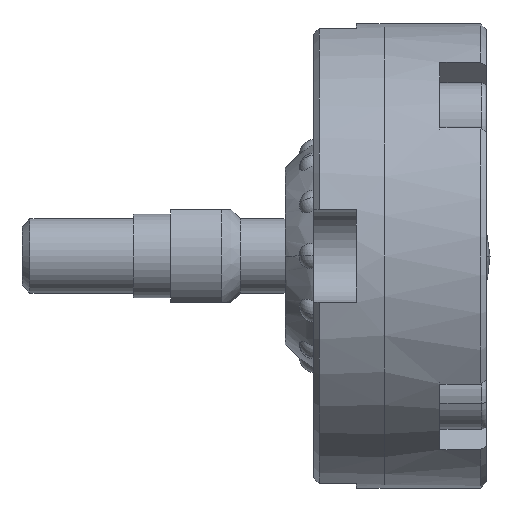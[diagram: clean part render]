
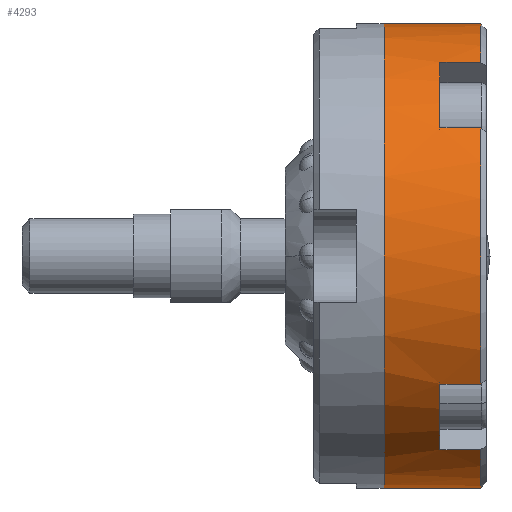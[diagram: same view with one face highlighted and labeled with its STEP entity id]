
A CAD part, front view. The second image highlights one B-rep face of the part: STEP entity #4293.
In plain terms, the highlighted cylindrical face has radius 12.5 mm (diameter 25 mm), a partial arc.
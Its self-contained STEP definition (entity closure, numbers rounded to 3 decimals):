
#707 = AXIS2_PLACEMENT_3D ( 'NONE', #9379, #9380, #9381 ) ;
#817 = AXIS2_PLACEMENT_3D ( 'NONE', #9047, #9048, #9049 ) ;
#819 = AXIS2_PLACEMENT_3D ( 'NONE', #9069, #9070, #9071 ) ;
#824 = AXIS2_PLACEMENT_3D ( 'NONE', #9090, #9091, #9092 ) ;
#827 = AXIS2_PLACEMENT_3D ( 'NONE', #9117, #9118, #9119 ) ;
#828 = AXIS2_PLACEMENT_3D ( 'NONE', #9120, #9121, #9122 ) ;
#994 = CARTESIAN_POINT ( 'NONE',  ( 0., 0., -12.5 ) ) ;
#995 = DIRECTION ( 'NONE',  ( -1., 0., 0. ) ) ;
#1299 = CARTESIAN_POINT ( 'NONE',  ( 5.2, 0., 0. ) ) ;
#1300 = DIRECTION ( 'NONE',  ( -1., 0., 0. ) ) ;
#1301 = DIRECTION ( 'NONE',  ( 0., 0., 1. ) ) ;
#1386 = CARTESIAN_POINT ( 'NONE',  ( 0., 0., 12.5 ) ) ;
#1387 = DIRECTION ( 'NONE',  ( -1., 0., 0. ) ) ;
#2089 = CARTESIAN_POINT ( 'NONE',  ( 5.2, -6.892, 10.428 ) ) ;
#2122 = CARTESIAN_POINT ( 'NONE',  ( 0., 0., 12.5 ) ) ;
#2123 = CARTESIAN_POINT ( 'NONE',  ( 5.2, 0., -12.5 ) ) ;
#2124 = CARTESIAN_POINT ( 'NONE',  ( 5.2, 0., 12.5 ) ) ;
#2125 = CARTESIAN_POINT ( 'NONE',  ( 0., 0., -12.5 ) ) ;
#2132 = CARTESIAN_POINT ( 'NONE',  ( 3., -6.892, 10.428 ) ) ;
#2133 = CARTESIAN_POINT ( 'NONE',  ( 3., -10.428, 6.892 ) ) ;
#2136 = CARTESIAN_POINT ( 'NONE',  ( 5.2, -10.428, 6.892 ) ) ;
#2137 = CARTESIAN_POINT ( 'NONE',  ( 5.2, -10.428, -6.892 ) ) ;
#2143 = CARTESIAN_POINT ( 'NONE',  ( 3., -10.428, -6.892 ) ) ;
#2144 = CARTESIAN_POINT ( 'NONE',  ( 3., -6.892, -10.428 ) ) ;
#2148 = CARTESIAN_POINT ( 'NONE',  ( 5.2, -6.892, -10.428 ) ) ;
#2980 = EDGE_CURVE ( 'NONE', #7038, #7073, #4916, .T. ) ;
#3014 = EDGE_CURVE ( 'NONE', #7073, #7071, #4867, .T. ) ;
#3035 = EDGE_CURVE ( 'NONE', #7072, #7074, #8943, .T. ) ;
#3082 = AXIS2_PLACEMENT_3D ( 'NONE', #1299, #1300, #1301 ) ;
#4293 = ADVANCED_FACE ( 'NONE', ( #7698 ), #7702, .T. ) ;
#4866 = VECTOR ( 'NONE', #1387, 1000. ) ;
#4867 = LINE ( 'NONE', #1386, #4866 ) ;
#4916 = CIRCLE ( 'NONE', #3082, 12.5 ) ;
#6561 = EDGE_LOOP ( 'NONE', ( #6757, #6758, #6759, #6760, #6761, #6762, #6763, #6764, #6765, #6766, #6767, #6768 ) ) ;
#6757 = ORIENTED_EDGE ( 'NONE', *, *, #3035, .F. ) ;
#6758 = ORIENTED_EDGE ( 'NONE', *, *, #7420, .T. ) ;
#6759 = ORIENTED_EDGE ( 'NONE', *, *, #7417, .F. ) ;
#6760 = ORIENTED_EDGE ( 'NONE', *, *, #7409, .F. ) ;
#6761 = ORIENTED_EDGE ( 'NONE', *, *, #7411, .T. ) ;
#6762 = ORIENTED_EDGE ( 'NONE', *, *, #7402, .T. ) ;
#6763 = ORIENTED_EDGE ( 'NONE', *, *, #7400, .F. ) ;
#6764 = ORIENTED_EDGE ( 'NONE', *, *, #7393, .F. ) ;
#6765 = ORIENTED_EDGE ( 'NONE', *, *, #7395, .T. ) ;
#6766 = ORIENTED_EDGE ( 'NONE', *, *, #2980, .T. ) ;
#6767 = ORIENTED_EDGE ( 'NONE', *, *, #3014, .T. ) ;
#6768 = ORIENTED_EDGE ( 'NONE', *, *, #7421, .F. ) ;
#7038 = VERTEX_POINT ( 'NONE', #2089 ) ;
#7071 = VERTEX_POINT ( 'NONE', #2122 ) ;
#7072 = VERTEX_POINT ( 'NONE', #2123 ) ;
#7073 = VERTEX_POINT ( 'NONE', #2124 ) ;
#7074 = VERTEX_POINT ( 'NONE', #2125 ) ;
#7081 = VERTEX_POINT ( 'NONE', #2132 ) ;
#7082 = VERTEX_POINT ( 'NONE', #2133 ) ;
#7085 = VERTEX_POINT ( 'NONE', #2136 ) ;
#7086 = VERTEX_POINT ( 'NONE', #2137 ) ;
#7092 = VERTEX_POINT ( 'NONE', #2143 ) ;
#7093 = VERTEX_POINT ( 'NONE', #2144 ) ;
#7097 = VERTEX_POINT ( 'NONE', #2148 ) ;
#7393 = EDGE_CURVE ( 'NONE', #7081, #7082, #8207, .T. ) ;
#7395 = EDGE_CURVE ( 'NONE', #7081, #7038, #8178, .T. ) ;
#7400 = EDGE_CURVE ( 'NONE', #7082, #7085, #8286, .T. ) ;
#7402 = EDGE_CURVE ( 'NONE', #7086, #7085, #8284, .T. ) ;
#7409 = EDGE_CURVE ( 'NONE', #7092, #7093, #8261, .T. ) ;
#7411 = EDGE_CURVE ( 'NONE', #7092, #7086, #8259, .T. ) ;
#7417 = EDGE_CURVE ( 'NONE', #7093, #7097, #8248, .T. ) ;
#7420 = EDGE_CURVE ( 'NONE', #7072, #7097, #8238, .T. ) ;
#7421 = EDGE_CURVE ( 'NONE', #7074, #7071, #8246, .T. ) ;
#7698 = FACE_OUTER_BOUND ( 'NONE', #6561, .T. ) ;
#7702 = CYLINDRICAL_SURFACE ( 'NONE', #707, 12.5 ) ;
#8177 = VECTOR ( 'NONE', #9064, 1000. ) ;
#8178 = LINE ( 'NONE', #9052, #8298 ) ;
#8207 = CIRCLE ( 'NONE', #817, 12.5 ) ;
#8238 = CIRCLE ( 'NONE', #827, 12.5 ) ;
#8246 = CIRCLE ( 'NONE', #828, 12.5 ) ;
#8247 = VECTOR ( 'NONE', #9109, 1000. ) ;
#8248 = LINE ( 'NONE', #9108, #8247 ) ;
#8257 = VECTOR ( 'NONE', #9096, 1000. ) ;
#8259 = LINE ( 'NONE', #9095, #8257 ) ;
#8261 = CIRCLE ( 'NONE', #824, 12.5 ) ;
#8284 = CIRCLE ( 'NONE', #819, 12.5 ) ;
#8286 = LINE ( 'NONE', #9063, #8177 ) ;
#8298 = VECTOR ( 'NONE', #9053, 1000. ) ;
#8943 = LINE ( 'NONE', #994, #8946 ) ;
#8946 = VECTOR ( 'NONE', #995, 1000. ) ;
#9047 = CARTESIAN_POINT ( 'NONE',  ( 3., 0., 0. ) ) ;
#9048 = DIRECTION ( 'NONE',  ( 1., 0., 0. ) ) ;
#9049 = DIRECTION ( 'NONE',  ( 0., 0., -1. ) ) ;
#9052 = CARTESIAN_POINT ( 'NONE',  ( 3., -6.892, 10.428 ) ) ;
#9053 = DIRECTION ( 'NONE',  ( 1., 0., 0. ) ) ;
#9063 = CARTESIAN_POINT ( 'NONE',  ( 3., -10.428, 6.892 ) ) ;
#9064 = DIRECTION ( 'NONE',  ( 1., 0., 0. ) ) ;
#9069 = CARTESIAN_POINT ( 'NONE',  ( 5.2, 0., 0. ) ) ;
#9070 = DIRECTION ( 'NONE',  ( -1., 0., 0. ) ) ;
#9071 = DIRECTION ( 'NONE',  ( 0., 0., 1. ) ) ;
#9090 = CARTESIAN_POINT ( 'NONE',  ( 3., 0., 0. ) ) ;
#9091 = DIRECTION ( 'NONE',  ( 1., 0., 0. ) ) ;
#9092 = DIRECTION ( 'NONE',  ( 0., 1., 0. ) ) ;
#9095 = CARTESIAN_POINT ( 'NONE',  ( 3., -10.428, -6.892 ) ) ;
#9096 = DIRECTION ( 'NONE',  ( 1., 0., 0. ) ) ;
#9108 = CARTESIAN_POINT ( 'NONE',  ( 3., -6.892, -10.428 ) ) ;
#9109 = DIRECTION ( 'NONE',  ( 1., 0., 0. ) ) ;
#9117 = CARTESIAN_POINT ( 'NONE',  ( 5.2, 0., 0. ) ) ;
#9118 = DIRECTION ( 'NONE',  ( -1., 0., 0. ) ) ;
#9119 = DIRECTION ( 'NONE',  ( 0., 0., 1. ) ) ;
#9120 = CARTESIAN_POINT ( 'NONE',  ( 0., 0., 0. ) ) ;
#9121 = DIRECTION ( 'NONE',  ( -1., 0., 0. ) ) ;
#9122 = DIRECTION ( 'NONE',  ( 0., 0., 1. ) ) ;
#9379 = CARTESIAN_POINT ( 'NONE',  ( 0., 0., 0. ) ) ;
#9380 = DIRECTION ( 'NONE',  ( -1., 0., 0. ) ) ;
#9381 = DIRECTION ( 'NONE',  ( 0., 0., 1. ) ) ;
